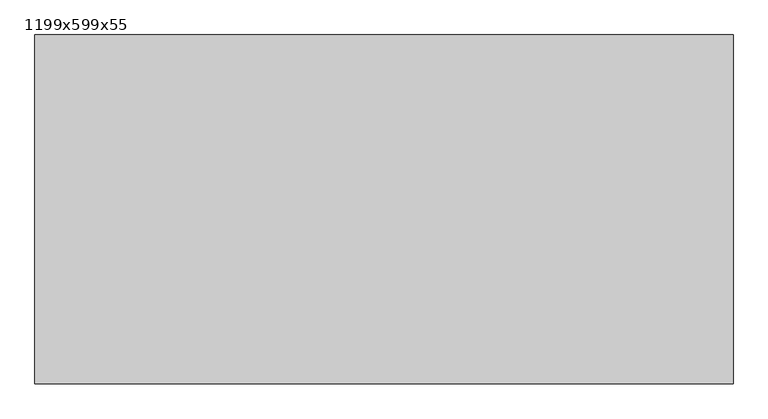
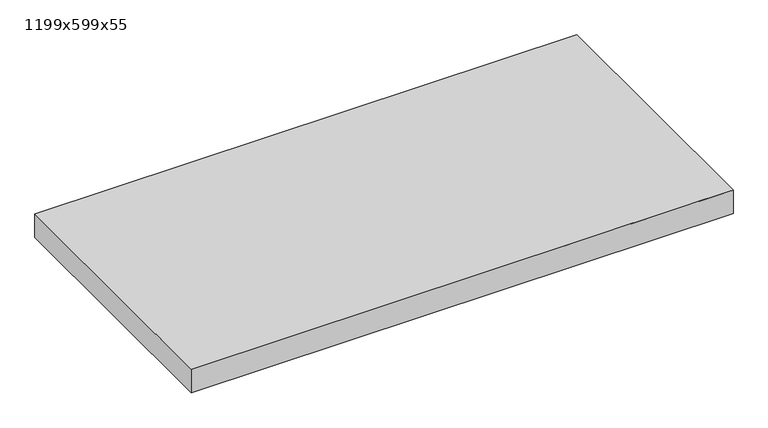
"""IFC4 building model written with IfcOpenShell, lengths in millimetres: proxy geometry, Texaa Panneaux Stereo fixés contre support par système magnétique séparés ou groupés au mur : 1199x599x55."""

from ifc_helpers import new_model, si_unit, frame, origin, place, context, project, spatial, polyline, outline, extrude, faceted_brep, source, transform, mapped, element, save


def proxy_1199x599x55_5547e46f(model_context):
    return source(origin(), model_context, "Body", "SolidModel", [
        extrude(outline(polyline([(-598.5, 298.5), (598.5, 298.5), (598.5, -298.5), (-598.5, -298.5), (-598.5, 298.5)])), frame((0.0, 0.0, 11.0), z_axis=(0.0, 0.0, 1.0), x_axis=(1.0, 0.0, 0.0)), (0.0, 0.0, 1.0), 53.0),
        faceted_brep([(599.5, -299.5, 65.0), (599.5, 299.5, 65.0), (-599.5, 299.5, 65.0), (-599.5, 298.3821524, 65.0), (-599.5, 297.2643049, 65.0), (-599.5, 243.6076222, 65.0), (-599.5, -299.5, 65.0), (487.6219349, -299.5, 65.0), (595.0248774, -299.5, 65.0), (597.2624387, -299.5, 65.0), (-599.5, 299.5, 10.0), (599.5, 299.5, 10.0), (599.5, -299.5, 10.0), (-599.5, -299.5, 10.0), (-549.5, -249.5, 10.0), (549.5, -249.5, 10.0), (549.5, 249.5, 10.0), (-549.5, 249.5, 10.0), (-599.5, 299.5, 64.0), (599.5, -299.5, 64.0), (-549.5, -249.5, 11.0), (549.5, -249.5, 11.0), (549.5, 249.5, 11.0), (-549.5, 249.5, 11.0), (598.5, 298.5, 64.0), (598.5, -298.5, 64.0), (597.4983306, -298.5, 64.0), (595.2607692, -298.5, 64.0), (593.0232079, -298.5, 64.0), (485.6202654, -298.5, 64.0), (-598.5, -298.5, 64.0), (-598.5, 243.1080392, 64.0), (-598.5, 296.7647219, 64.0), (-598.5, 297.8825695, 64.0), (-598.5, 298.5, 64.0), (-597.4983306, 298.5, 64.0), (-598.5, 298.5, 11.0), (-598.5, -298.5, 11.0), (598.5, -298.5, 11.0), (598.5, 298.5, 11.0)], [[[0, 1, 2, 3, 4, 5, 6, 7, 8, 9]], [[10, 11, 12, 13], [14, 15, 16, 17]], [[10, 13, 6, 5, 4, 3, 2, 18]], [[13, 12, 19, 0, 9, 8, 7, 6]], [[1, 0, 19, 12, 11]], [[2, 1, 11, 10, 18]], [[14, 20, 21, 15]], [[15, 21, 22, 16]], [[16, 22, 23, 17]], [[20, 14, 17, 23]], [[24, 25, 26, 27, 28, 29, 30, 31, 32, 33, 34, 35]], [[36, 37, 38, 39], [21, 20, 23, 22]], [[37, 36, 34, 33, 32, 31, 30]], [[38, 37, 30, 29, 28, 27, 26, 25]], [[25, 24, 39, 38]], [[36, 39, 24, 35, 34]]]),
    ])


if __name__ == "__main__":
    model = new_model("IFC4")
    model_context = context("Model", 3, world=origin())
    ifc_project = project(units=[si_unit("LENGTHUNIT", "METRE", prefix="MILLI")], contexts=[model_context])
    site = spatial("IfcSite", under=ifc_project)
    building = spatial("IfcBuilding", under=site)
    placement = place(None, origin())
    proxy_1199x599x55_shape = proxy_1199x599x55_5547e46f(model_context)
    element("IfcBuildingElementProxy", 1, Name="Texaa Panneaux Stereo fixés contre support par système magnétique séparés ou groupés au mur : 1199x599x55", ObjectType="Texaa Panneaux Stereo fixés contre support par système magnétique séparés ou groupés au mur : 1199x599x55", at=placement, inside=building, context=model_context, shape_type="MappedRepresentation", body=[
        mapped(proxy_1199x599x55_shape, transform((0.0, 0.0, 0.0), x_axis=(1.0, 0.0, 0.0), y_axis=(0.0, 1.0, 0.0), z_axis=(0.0, 0.0, 1.0))),
    ])
    save(model, "model.ifc")
